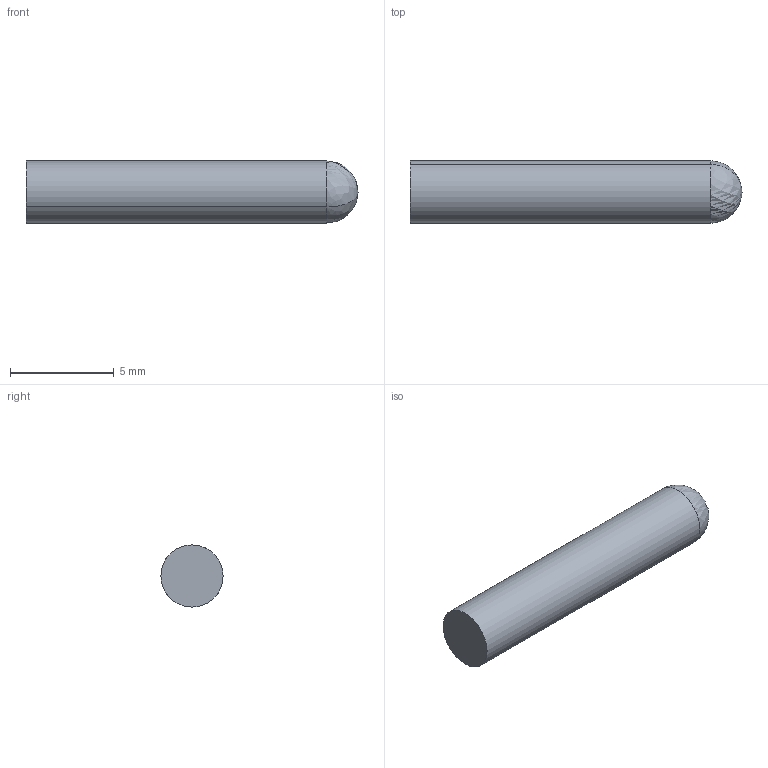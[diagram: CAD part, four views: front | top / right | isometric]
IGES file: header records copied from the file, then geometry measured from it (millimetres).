
Start section: START RECORD GO HERE.
Global section: file name: GOUPILLE.igs; native system: IBM CATIA IGES - CATIA Version 5 Release 18 ; preprocessor: CATIA Version 5 Release 18 ; author: Propriétaire; organization: FUJITSU-79916BB; date: 20090111.191137; units: millimetre
Bounding box: 16 x 3 x 3 mm (x, y, z)
Surface area: 186.1 mm2 (no closed solid volume)
Topology: 0 solids, 0 shells, 5 faces, 20 edges, 16 vertices
Faces by surface type: revolution 4, plane 1
